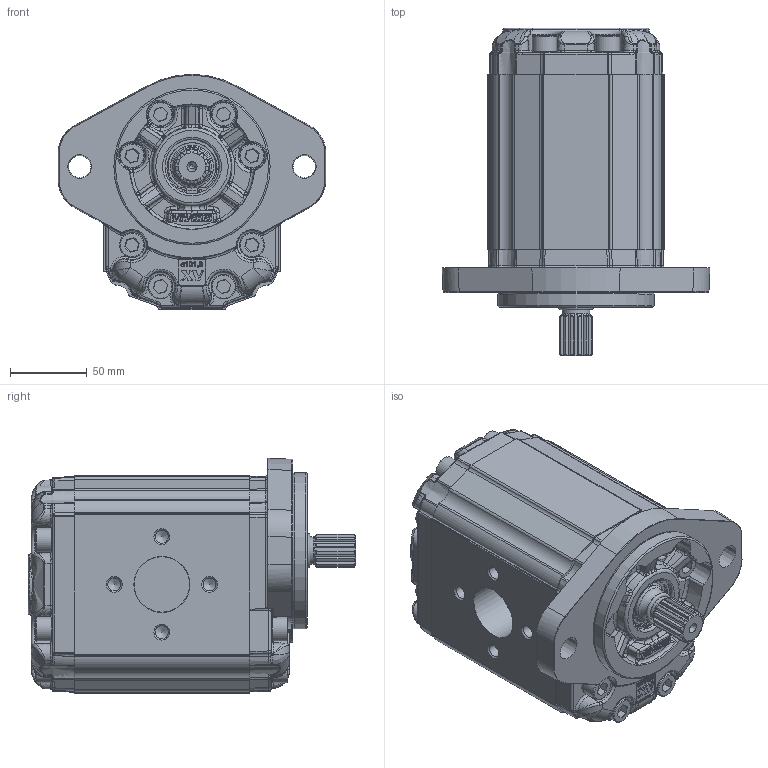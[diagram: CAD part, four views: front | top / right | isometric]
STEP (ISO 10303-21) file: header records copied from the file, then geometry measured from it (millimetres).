
FILE_DESCRIPTION(/* description */ ('Unknown'),/* implementation_level */ '2;1');
FILE_NAME(/* name */ 'X3R8731ICCF',/* time_stamp */ '2021-04-26T13:02:46+02:00',/* author */ ('Unknown'),/* organization */ ('Unknown'),/* preprocessor_version */ 'ST-DEVELOPER v16.7',/* originating_system */ 'Solid Edge',/* authorisation */ 'Unknown');
FILE_SCHEMA (('AUTOMOTIVE_DESIGN {1 0 10303 214 3 1 1}'));
Products named in the file (5): X3R8731ICCF; X3R31; 3I; X3CCH114; XR331-F
Assembly tree (4 placements, depth 2):
  X3R8731ICCF
    X3R31
    3I
    X3CCH114
    XR331-F
Bounding box: 174 x 213.2 x 153 mm (x, y, z)
Volume: 2457714.6 mm3; surface area: 222097.2 mm2
Topology: 4 solids, 21 shells, 3062 faces, 7898 edges, 4993 vertices
Faces by surface type: bspline 1317, plane 876, cylinder 654, cone 105, torus 94, sphere 16
Full cylindrical faces by diameter (mm): 2 x2, 8.376 x8, 10 x16, 15.8 x16, 16 x16, 18 x2, 24.98 x1, 25 x2, 25.968 x1, 28.16 x1, 31.293 x1, 32.742 x1, 34.956 x1, 35 x1, 35.2 x1, 36 x2, 37 x1, 101.6 x1
Entity records: 162906 total; most frequent: CARTESIAN_POINT 82491, ORIENTED_EDGE 15348, EDGE_CURVE 7674, DIRECTION 6756, B_SPLINE_CURVE_WITH_KNOTS 4985, VERTEX_POINT 4932, FACE_BOUND 3354, EDGE_LOOP 3344
